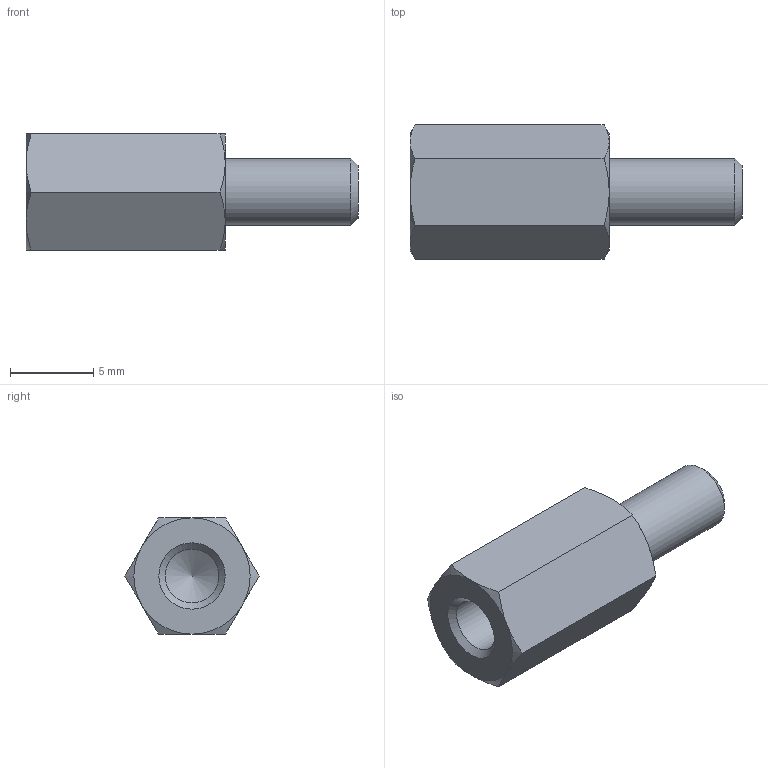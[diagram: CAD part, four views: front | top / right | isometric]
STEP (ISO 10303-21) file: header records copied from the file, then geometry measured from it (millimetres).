
FILE_DESCRIPTION( ( 'STEP AP203' ), '1' );
FILE_NAME( 'C:/Temp/Ganter_Step_05_03_2020/data/3_2/gn6220/gn6220_ni/Stainless Steel-Spacer GN 6220-NI-M4-12-B.stp', '2020-03-13T05:43:09', ( 'License CC BY-ND 4.0' ), ( 'CADENAS' ), ' ', 'PARTsolutions', ' ' );
FILE_SCHEMA( ( 'CONFIG_CONTROL_DESIGN' ) );
Length unit declared in the file: millimetre
Products named in the file (1): _Stainless Steel-Spacer GN 6220-NI-M4-12-B
Bounding box: 20 x 8.08 x 7 mm (x, y, z)
Volume: 530.2 mm3; surface area: 560 mm2
Topology: 1 solids, 1 shells, 26 faces, 55 edges, 32 vertices
Faces by surface type: cone 15, plane 9, cylinder 2
Full cylindrical faces by diameter (mm): 3.242 x1, 4 x1
Entity records: 746 total; most frequent: CARTESIAN_POINT 210, DIRECTION 96, ORIENTED_EDGE 96, EDGE_CURVE 48, AXIS2_PLACEMENT_3D 45, EDGE_LOOP 32, VERTEX_POINT 31, FACE_OUTER_BOUND 28
